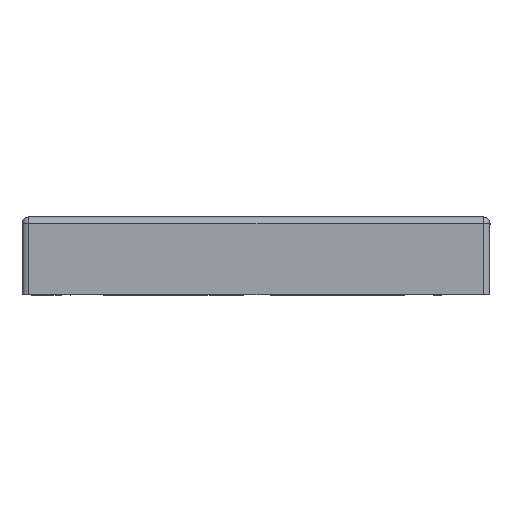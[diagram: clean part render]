
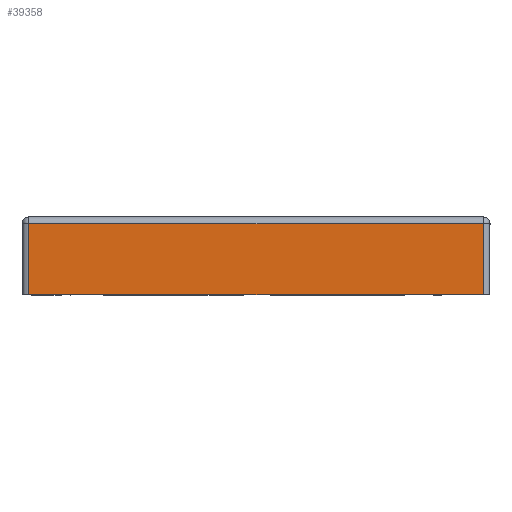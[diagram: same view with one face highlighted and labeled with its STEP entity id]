
A CAD part, left-side view. The second image highlights one B-rep face of the part: STEP entity #39358.
In plain terms, the highlighted planar face has unit normal (-1, 0, 0).
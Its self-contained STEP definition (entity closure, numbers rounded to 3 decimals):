
#1089 = ORIENTED_EDGE ( 'NONE', *, *, #37677, .F. ) ;
#1614 = DIRECTION ( 'NONE',  ( 0., -1., 0. ) ) ;
#2327 = ORIENTED_EDGE ( 'NONE', *, *, #8563, .T. ) ;
#2544 = CARTESIAN_POINT ( 'NONE',  ( -21.181, 164.181, 102.322 ) ) ;
#2847 = VECTOR ( 'NONE', #29261, 1000. ) ;
#3483 = VECTOR ( 'NONE', #6583, 1000. ) ;
#5099 = LINE ( 'NONE', #26891, #38278 ) ;
#6583 = DIRECTION ( 'NONE',  ( 0., -1., 0. ) ) ;
#8181 = DIRECTION ( 'NONE',  ( 0., 0., -1. ) ) ;
#8563 = EDGE_CURVE ( 'NONE', #35277, #20494, #35452, .T. ) ;
#9532 = AXIS2_PLACEMENT_3D ( 'NONE', #18521, #39723, #18199 ) ;
#9681 = CARTESIAN_POINT ( 'NONE',  ( -21.181, 65.181, 102.322 ) ) ;
#11483 = CARTESIAN_POINT ( 'NONE',  ( -21.181, 164.181, 117.822 ) ) ;
#13032 = FACE_OUTER_BOUND ( 'NONE', #42690, .T. ) ;
#18199 = DIRECTION ( 'NONE',  ( 0., 0., 1. ) ) ;
#18521 = CARTESIAN_POINT ( 'NONE',  ( -21.181, 107.681, 102.322 ) ) ;
#18574 = CARTESIAN_POINT ( 'NONE',  ( -21.181, 65.181, 102.322 ) ) ;
#20494 = VERTEX_POINT ( 'NONE', #2544 ) ;
#23069 = VECTOR ( 'NONE', #8181, 1000. ) ;
#26891 = CARTESIAN_POINT ( 'NONE',  ( -21.181, -22.469, 117.822 ) ) ;
#27959 = VERTEX_POINT ( 'NONE', #30672 ) ;
#28238 = EDGE_CURVE ( 'NONE', #45873, #27959, #45063, .T. ) ;
#29261 = DIRECTION ( 'NONE',  ( 0., 0., 1. ) ) ;
#29630 = ORIENTED_EDGE ( 'NONE', *, *, #28238, .T. ) ;
#30672 = CARTESIAN_POINT ( 'NONE',  ( -21.181, 65.181, 117.822 ) ) ;
#32749 = LINE ( 'NONE', #35330, #3483 ) ;
#33465 = CARTESIAN_POINT ( 'NONE',  ( -21.181, 164.181, 102.322 ) ) ;
#35277 = VERTEX_POINT ( 'NONE', #11483 ) ;
#35330 = CARTESIAN_POINT ( 'NONE',  ( -21.181, 122.681, 102.322 ) ) ;
#35452 = LINE ( 'NONE', #33465, #23069 ) ;
#36860 = EDGE_CURVE ( 'NONE', #20494, #45873, #32749, .T. ) ;
#37677 = EDGE_CURVE ( 'NONE', #35277, #27959, #5099, .T. ) ;
#38278 = VECTOR ( 'NONE', #1614, 1000. ) ;
#39358 = ADVANCED_FACE ( 'NONE', ( #13032 ), #43541, .T. ) ;
#39495 = ORIENTED_EDGE ( 'NONE', *, *, #36860, .T. ) ;
#39723 = DIRECTION ( 'NONE',  ( -1., 0., 0. ) ) ;
#42690 = EDGE_LOOP ( 'NONE', ( #1089, #2327, #39495, #29630 ) ) ;
#43541 = PLANE ( 'NONE',  #9532 ) ;
#45063 = LINE ( 'NONE', #18574, #2847 ) ;
#45873 = VERTEX_POINT ( 'NONE', #9681 ) ;
